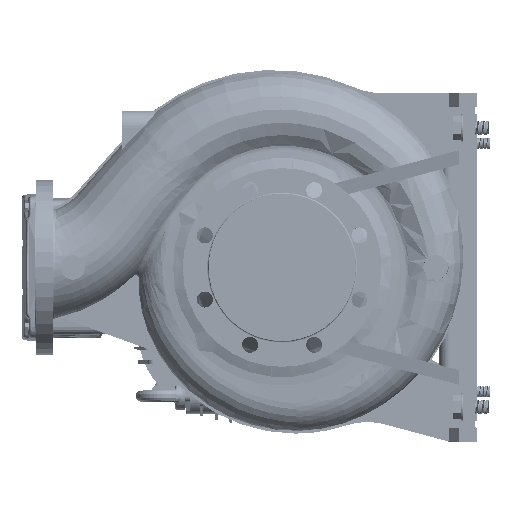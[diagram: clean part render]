
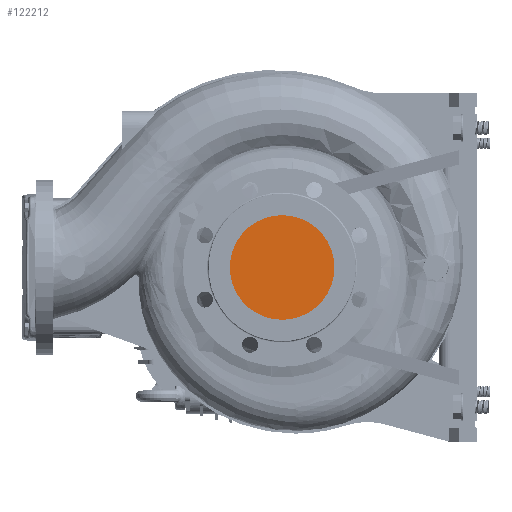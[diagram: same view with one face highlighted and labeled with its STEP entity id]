
A CAD part, left-side view. The second image highlights one B-rep face of the part: STEP entity #122212.
In plain terms, the highlighted planar face has unit normal (-1, 0, 0).
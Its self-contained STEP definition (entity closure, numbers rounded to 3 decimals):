
#5561 = CARTESIAN_POINT ( 'NONE',  ( -135., 0., 0. ) ) ;
#14036 = EDGE_CURVE ( 'NONE', #47552, #161020, #33362, .T. ) ;
#33362 = CIRCLE ( 'NONE', #66514, 75. ) ;
#47552 = VERTEX_POINT ( 'NONE', #76701 ) ;
#58404 = FACE_OUTER_BOUND ( 'NONE', #151154, .T. ) ;
#66514 = AXIS2_PLACEMENT_3D ( 'NONE', #160413, #163012, #134457 ) ;
#72299 = DIRECTION ( 'NONE',  ( 1., 0., 0. ) ) ;
#76701 = CARTESIAN_POINT ( 'NONE',  ( -135., 0., -75. ) ) ;
#82098 = ORIENTED_EDGE ( 'NONE', *, *, #14036, .F. ) ;
#82964 = AXIS2_PLACEMENT_3D ( 'NONE', #5561, #72299, #151918 ) ;
#95646 = CARTESIAN_POINT ( 'NONE',  ( -135., -75.9, -75.9 ) ) ;
#99077 = PLANE ( 'NONE',  #128189 ) ;
#108643 = DIRECTION ( 'NONE',  ( -1., 0., 0. ) ) ;
#118934 = CIRCLE ( 'NONE', #82964, 75. ) ;
#122212 = ADVANCED_FACE ( 'NONE', ( #58404 ), #99077, .T. ) ;
#122499 = DIRECTION ( 'NONE',  ( 0., 0., 1. ) ) ;
#128189 = AXIS2_PLACEMENT_3D ( 'NONE', #95646, #108643, #122499 ) ;
#134153 = ORIENTED_EDGE ( 'NONE', *, *, #155254, .F. ) ;
#134457 = DIRECTION ( 'NONE',  ( 0., 0., 1. ) ) ;
#151154 = EDGE_LOOP ( 'NONE', ( #134153, #82098 ) ) ;
#151918 = DIRECTION ( 'NONE',  ( 0., 0., 1. ) ) ;
#155254 = EDGE_CURVE ( 'NONE', #161020, #47552, #118934, .T. ) ;
#160334 = CARTESIAN_POINT ( 'NONE',  ( -135., 0., 75. ) ) ;
#160413 = CARTESIAN_POINT ( 'NONE',  ( -135., 0., 0. ) ) ;
#161020 = VERTEX_POINT ( 'NONE', #160334 ) ;
#163012 = DIRECTION ( 'NONE',  ( 1., 0., 0. ) ) ;
